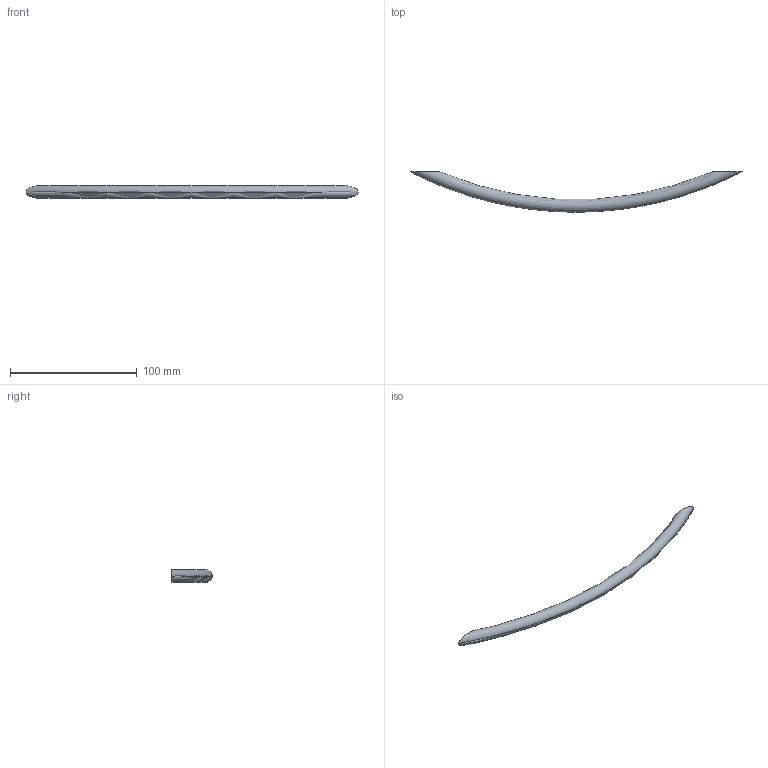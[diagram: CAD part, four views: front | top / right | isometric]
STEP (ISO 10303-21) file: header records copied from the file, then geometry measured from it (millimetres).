
FILE_DESCRIPTION( ( '' ), '1' );
FILE_NAME( 'D:/HETTCAD 2014/DATA TRANSFER/AUTOCAD EXPORT/SENT/Sheet correction/prodecor nicia/9070985/9071049.stp', '2014-08-27T08:57:44', ( '' ), ( '' ), ' ', ' ', ' ' );
FILE_SCHEMA( ( 'CONFIG_CONTROL_DESIGN' ) );
Length unit declared in the file: millimetre
Products named in the file (1): 1
Bounding box: 262 x 32 x 10 mm (x, y, z)
Volume: 19272.8 mm3; surface area: 8282.3 mm2
Topology: 1 solids, 1 shells, 10 faces, 18 edges, 12 vertices
Faces by surface type: cylinder 4, plane 4, torus 2
Entity records: 484 total; most frequent: CARTESIAN_POINT 237, DIRECTION 46, ORIENTED_EDGE 36, AXIS2_PLACEMENT_3D 21, EDGE_CURVE 18, EDGE_LOOP 12, VERTEX_POINT 12, ADVANCED_FACE 10
